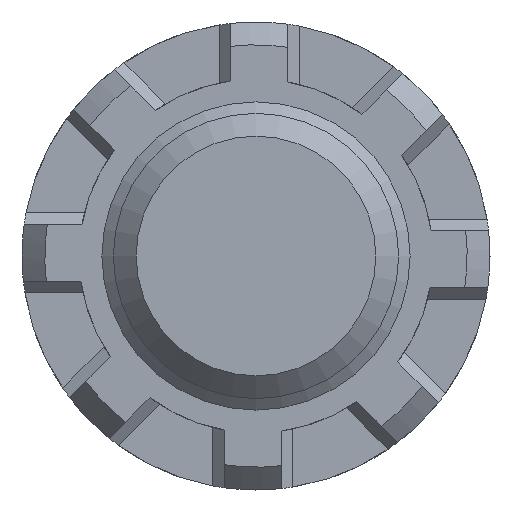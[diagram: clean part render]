
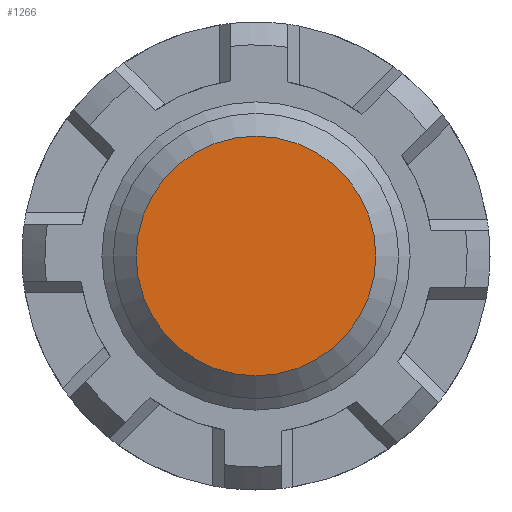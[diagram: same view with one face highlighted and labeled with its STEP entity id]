
A CAD part, front view. The second image highlights one B-rep face of the part: STEP entity #1266.
In plain terms, the highlighted planar face has unit normal (0, -1, 0).
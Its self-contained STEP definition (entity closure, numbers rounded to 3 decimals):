
#99=CIRCLE('',#1431,1.05);
#173=FACE_OUTER_BOUND('',#241,.T.);
#241=EDGE_LOOP('',(#1093));
#572=VERTEX_POINT('',#2238);
#757=EDGE_CURVE('',#572,#572,#99,.T.);
#1093=ORIENTED_EDGE('',*,*,#757,.F.);
#1205=PLANE('',#1434);
#1266=ADVANCED_FACE('',(#173),#1205,.T.);
#1431=AXIS2_PLACEMENT_3D('',#2239,#1804,#1805);
#1434=AXIS2_PLACEMENT_3D('',#2245,#1811,#1812);
#1804=DIRECTION('center_axis',(0.,1.,0.));
#1805=DIRECTION('ref_axis',(-1.,0.,0.));
#1811=DIRECTION('center_axis',(0.,-1.,0.));
#1812=DIRECTION('ref_axis',(0.,0.,-1.));
#2238=CARTESIAN_POINT('',(1.05,0.,0.));
#2239=CARTESIAN_POINT('Origin',(0.,0.,0.));
#2245=CARTESIAN_POINT('Origin',(0.,0.,0.));
